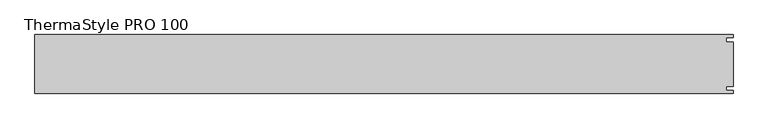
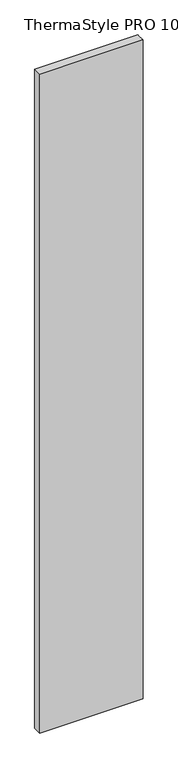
"""IFC4 building model written with IfcOpenShell, lengths in millimetres: plate geometry, Europanels_ThermaStyle PRO_Vt : ThermaStyle PRO 100."""

from ifc_helpers import new_model, si_unit, origin, origin_with_axes, place, context, project, spatial, polyline, outline, extrude, source, transform, mapped, element, save


def thermastyle_pro_100_76ed6ceb(model_context):
    return source(origin(), model_context, "Body", "SweptSolid", [
        extrude(outline(polyline([(-594.0, -50.0), (-594.0, 50.0), (594.0, 50.0), (594.0, 45.0), (582.0447029, 45.0), (582.0447029, 37.8855682), (594.0, 37.8855682), (594.0, -37.8855682), (582.0447029, -37.8855682), (582.0447029, -45.0), (594.0, -45.0), (594.0, -50.0), (-594.0, -50.0)])), origin_with_axes(), (0.0, 0.0, 1.0), 8000.0),
    ])


if __name__ == "__main__":
    model = new_model("IFC4")
    model_context = context("Model", 3, world=origin())
    ifc_project = project(units=[si_unit("LENGTHUNIT", "METRE", prefix="MILLI")], contexts=[model_context])
    site = spatial("IfcSite", under=ifc_project)
    building = spatial("IfcBuilding", under=site)
    placement = place(None, origin())
    thermastyle_pro_100_shape = thermastyle_pro_100_76ed6ceb(model_context)
    element("IfcPlate", 1, ObjectType="Europanels_ThermaStyle PRO_Vt : ThermaStyle PRO 100", at=placement, inside=building, context=model_context, shape_type="MappedRepresentation", body=[
        mapped(thermastyle_pro_100_shape, transform((0.0, 0.0, 0.0), x_axis=(1.0, 0.0, 0.0), y_axis=(0.0, 1.0, 0.0), z_axis=(0.0, 0.0, 1.0))),
    ])
    save(model, "model.ifc")
